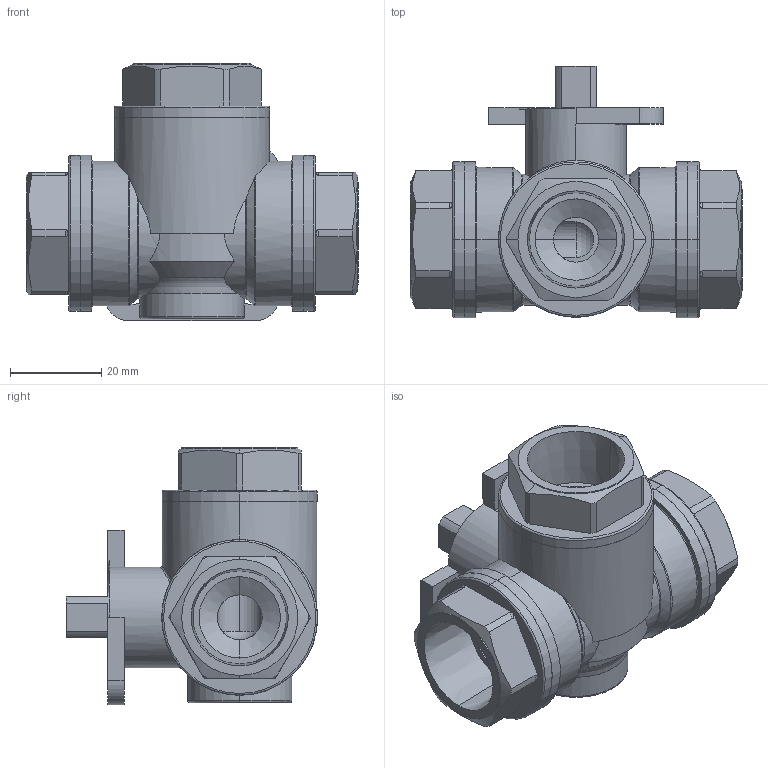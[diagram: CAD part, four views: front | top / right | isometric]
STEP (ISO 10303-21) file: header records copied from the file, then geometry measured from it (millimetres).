
FILE_DESCRIPTION (( 'STEP AP203' ), '1' );
FILE_NAME ('b2s-4tl.STEP', '2021-06-29T17:18:07', ( 'Owner' ), ( '' ), 'SwSTEP 2.0', 'SolidWorks 2017', '' );
FILE_SCHEMA (( 'CONFIG_CONTROL_DESIGN' ));
Length unit declared in the file: inch
Products named in the file (2): b2s-4tl
Bounding box: 72.9 x 55.24 x 56.52 mm (x, y, z)
Volume: 57873.6 mm3; surface area: 22600.7 mm2
Topology: 1 solids, 5 shells, 236 faces, 591 edges, 379 vertices
Faces by surface type: cylinder 98, plane 63, torus 38, cone 29, bspline 4, sphere 4
Entity records: 8320 total; most frequent: CARTESIAN_POINT 2597, ORIENTED_EDGE 1172, DIRECTION 1167, EDGE_CURVE 586, AXIS2_PLACEMENT_3D 483, VERTEX_POINT 377, EDGE_LOOP 261, CIRCLE 249
